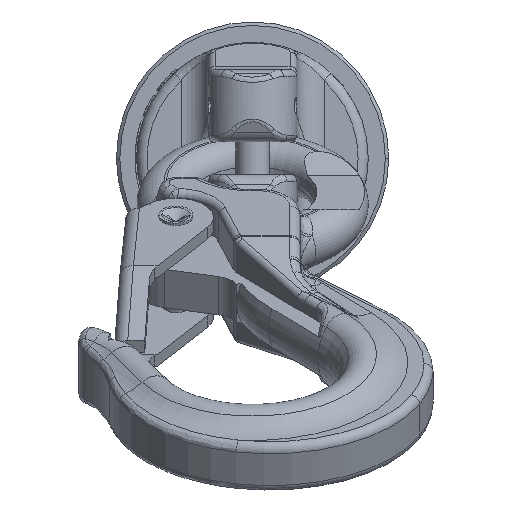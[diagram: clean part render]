
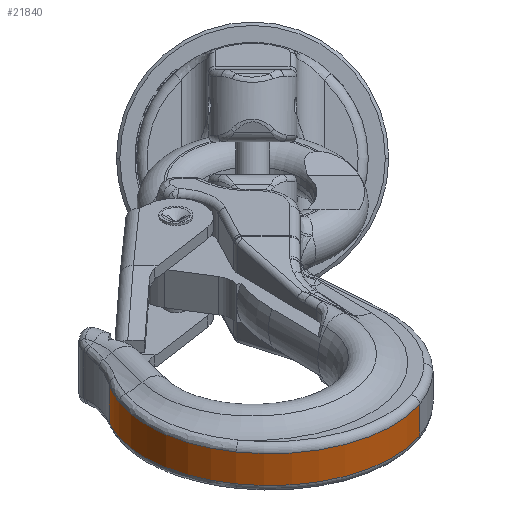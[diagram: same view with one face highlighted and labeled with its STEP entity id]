
A CAD part, left-side view. The second image highlights one B-rep face of the part: STEP entity #21840.
In plain terms, the highlighted cylindrical face has radius 24 mm (diameter 48 mm), a partial arc.
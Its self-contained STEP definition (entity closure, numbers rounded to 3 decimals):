
#17412=DIRECTION('',(0.,1.,0.));
#17413=VECTOR('',#17412,6.403);
#17414=CARTESIAN_POINT('',(-21.065,-3.202,
67.548));
#17415=LINE('',#17414,#17413);
#17424=DIRECTION('',(0.,1.,0.));
#17425=VECTOR('',#17424,5.4);
#17426=CARTESIAN_POINT('',(24.559,-2.7,72.455));
#17427=LINE('',#17426,#17425);
#17683=CARTESIAN_POINT('',(-21.065,-3.202,
67.548));
#17702=CARTESIAN_POINT('',(-19.591,-2.959,
72.38));
#17703=CARTESIAN_POINT('',(-19.817,-2.968,
71.848));
#17704=CARTESIAN_POINT('',(-20.227,-2.996,
70.776));
#17705=CARTESIAN_POINT('',(-20.717,-3.073,
69.156));
#17706=CARTESIAN_POINT('',(-20.962,-3.153,
68.082));
#17707=CARTESIAN_POINT('',(-21.065,-3.202,
67.548));
#17721=CARTESIAN_POINT('',(-2.375,-2.7,
86.5));
#17722=CARTESIAN_POINT('',(-3.32,-2.7,
86.304));
#17723=CARTESIAN_POINT('',(-5.185,-2.703,
85.798));
#17724=CARTESIAN_POINT('',(-7.871,-2.719,
84.708));
#17725=CARTESIAN_POINT('',(-10.407,-2.744,
83.303));
#17726=CARTESIAN_POINT('',(-12.755,-2.777,
81.604));
#17727=CARTESIAN_POINT('',(-14.883,-2.818,
79.633));
#17728=CARTESIAN_POINT('',(-16.757,-2.864,
77.421));
#17729=CARTESIAN_POINT('',(-18.352,-2.912,
74.999));
#17730=CARTESIAN_POINT('',(-19.214,-2.944,
73.269));
#17731=CARTESIAN_POINT('',(-19.591,-2.959,
72.38));
#17750=CARTESIAN_POINT('',(2.5,-2.7,63.));
#17751=DIRECTION('',(0.,-1.,0.));
#17752=DIRECTION('',(0.919,0.,0.394));
#17753=AXIS2_PLACEMENT_3D('',#17750,#17751,#17752);
#19613=CARTESIAN_POINT('',(-2.375,2.7,
86.5));
#19614=CARTESIAN_POINT('',(-3.32,2.7,
86.304));
#19615=CARTESIAN_POINT('',(-5.185,2.703,
85.798));
#19616=CARTESIAN_POINT('',(-7.871,2.719,
84.708));
#19617=CARTESIAN_POINT('',(-10.407,2.744,
83.303));
#19618=CARTESIAN_POINT('',(-12.755,2.777,
81.604));
#19619=CARTESIAN_POINT('',(-14.883,2.818,
79.633));
#19620=CARTESIAN_POINT('',(-16.757,2.864,
77.421));
#19621=CARTESIAN_POINT('',(-18.352,2.912,
74.999));
#19622=CARTESIAN_POINT('',(-19.214,2.944,
73.269));
#19623=CARTESIAN_POINT('',(-19.591,2.959,
72.38));
#19642=CARTESIAN_POINT('',(-19.591,2.959,
72.38));
#19643=CARTESIAN_POINT('',(-19.817,2.968,
71.848));
#19644=CARTESIAN_POINT('',(-20.227,2.996,
70.776));
#19645=CARTESIAN_POINT('',(-20.717,3.073,
69.156));
#19646=CARTESIAN_POINT('',(-20.962,3.153,
68.082));
#19647=CARTESIAN_POINT('',(-21.065,3.202,
67.548));
#19661=CARTESIAN_POINT('',(-21.065,3.202,
67.548));
#20796=CARTESIAN_POINT('',(2.5,2.7,63.));
#20797=DIRECTION('',(0.,-1.,0.));
#20798=DIRECTION('',(0.919,0.,0.394));
#20799=AXIS2_PLACEMENT_3D('',#20796,#20797,#20798);
#20929=VERTEX_POINT('',#19661);
#20931=VERTEX_POINT('',#19642);
#20933=VERTEX_POINT('',#19613);
#20935=CARTESIAN_POINT('',(24.559,2.7,72.455));
#20936=VERTEX_POINT('',#20935);
#21139=VERTEX_POINT('',#17683);
#21141=VERTEX_POINT('',#17702);
#21143=VERTEX_POINT('',#17721);
#21145=CARTESIAN_POINT('',(24.559,-2.7,72.455));
#21146=VERTEX_POINT('',#21145);
#21818=CARTESIAN_POINT('',(2.5,6.,63.));
#21819=DIRECTION('',(0.,1.,0.));
#21820=DIRECTION('',(1.,0.,0.));
#21821=AXIS2_PLACEMENT_3D('',#21818,#21819,#21820);
#21822=CYLINDRICAL_SURFACE('',#21821,24.);
#21824=ORIENTED_EDGE('',*,*,#21823,.F.);
#21826=ORIENTED_EDGE('',*,*,#21825,.T.);
#21828=ORIENTED_EDGE('',*,*,#21827,.T.);
#21830=ORIENTED_EDGE('',*,*,#21829,.T.);
#21831=ORIENTED_EDGE('',*,*,#21800,.T.);
#21833=ORIENTED_EDGE('',*,*,#21832,.F.);
#21835=ORIENTED_EDGE('',*,*,#21834,.F.);
#21837=ORIENTED_EDGE('',*,*,#21836,.F.);
#21838=EDGE_LOOP('',(#21824,#21826,#21828,#21830,#21831,#21833,#21835,#21837));
#21839=FACE_OUTER_BOUND('',#21838,.F.);
#21840=ADVANCED_FACE('',(#21839),#21822,.T.);
#17708=B_SPLINE_CURVE_WITH_KNOTS('',3,(#17702,#17703,#17704,#17705,#17706,
#17707),.UNSPECIFIED.,.F.,.F.,(4,1,1,4),(0.,0.333,
0.667,1.),.UNSPECIFIED.);
#17732=B_SPLINE_CURVE_WITH_KNOTS('',3,(#17721,#17722,#17723,#17724,#17725,
#17726,#17727,#17728,#17729,#17730,#17731),.UNSPECIFIED.,.F.,.F.,(4,1,1,1,1,1,1,
1,4),(0.,0.125,0.25,0.375,0.5,0.625,0.75,0.875,1.),
.UNSPECIFIED.);
#17754=CIRCLE('',#17753,24.);
#19624=B_SPLINE_CURVE_WITH_KNOTS('',3,(#19613,#19614,#19615,#19616,#19617,
#19618,#19619,#19620,#19621,#19622,#19623),.UNSPECIFIED.,.F.,.F.,(4,1,1,1,1,1,1,
1,4),(0.,0.125,0.25,0.375,0.5,0.625,0.75,0.875,1.),
.UNSPECIFIED.);
#19648=B_SPLINE_CURVE_WITH_KNOTS('',3,(#19642,#19643,#19644,#19645,#19646,
#19647),.UNSPECIFIED.,.F.,.F.,(4,1,1,4),(0.,0.333,
0.667,1.),.UNSPECIFIED.);
#20800=CIRCLE('',#20799,24.);
#21800=EDGE_CURVE('',#21139,#20929,#17415,.T.);
#21823=EDGE_CURVE('',#21146,#20936,#17427,.T.);
#21825=EDGE_CURVE('',#21146,#21143,#17754,.T.);
#21827=EDGE_CURVE('',#21143,#21141,#17732,.T.);
#21829=EDGE_CURVE('',#21141,#21139,#17708,.T.);
#21832=EDGE_CURVE('',#20931,#20929,#19648,.T.);
#21834=EDGE_CURVE('',#20933,#20931,#19624,.T.);
#21836=EDGE_CURVE('',#20936,#20933,#20800,.T.);
